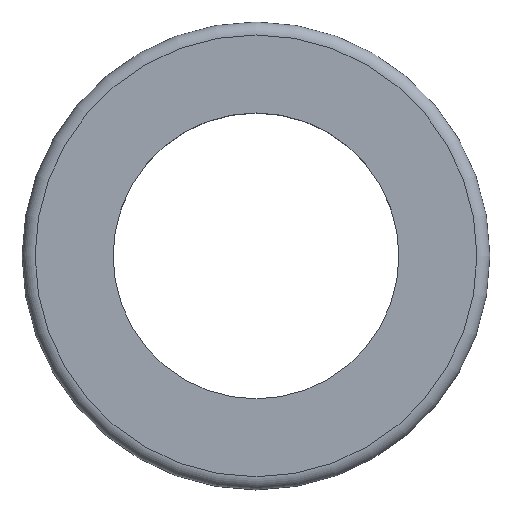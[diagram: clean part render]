
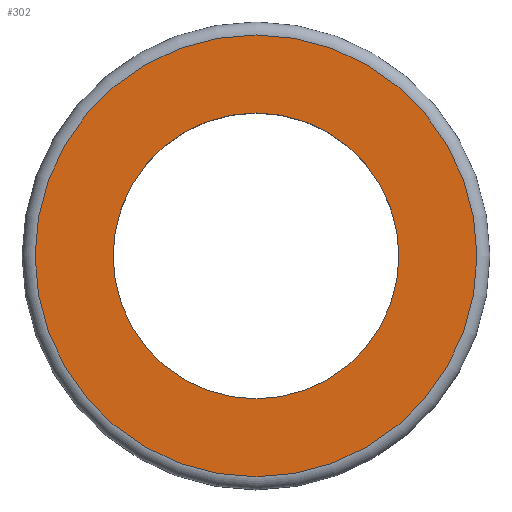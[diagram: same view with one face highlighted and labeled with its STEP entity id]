
A CAD part, top view. The second image highlights one B-rep face of the part: STEP entity #302.
In plain terms, the highlighted planar face has unit normal (0, 0, 1).
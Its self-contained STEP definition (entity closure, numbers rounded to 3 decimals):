
#31 = CYLINDRICAL_SURFACE('',#32,3.3);
#32 = AXIS2_PLACEMENT_3D('',#33,#34,#35);
#33 = CARTESIAN_POINT('',(0.,0.,1.9));
#34 = DIRECTION('',(0.,0.,1.));
#35 = DIRECTION('',(1.,0.,-0.));
#56 = VERTEX_POINT('',#57);
#57 = CARTESIAN_POINT('',(3.3,0.,3.5));
#78 = EDGE_CURVE('',#56,#56,#79,.T.);
#79 = SURFACE_CURVE('',#80,(#85,#92),.PCURVE_S1.);
#80 = CIRCLE('',#81,3.3);
#81 = AXIS2_PLACEMENT_3D('',#82,#83,#84);
#82 = CARTESIAN_POINT('',(0.,0.,3.5));
#83 = DIRECTION('',(0.,0.,1.));
#84 = DIRECTION('',(1.,0.,-0.));
#85 = PCURVE('',#31,#86);
#86 = DEFINITIONAL_REPRESENTATION('',(#87),#91);
#87 = LINE('',#88,#89);
#88 = CARTESIAN_POINT('',(0.,1.6));
#89 = VECTOR('',#90,1.);
#90 = DIRECTION('',(1.,0.));
#91 = ( GEOMETRIC_REPRESENTATION_CONTEXT(2) 
PARAMETRIC_REPRESENTATION_CONTEXT() REPRESENTATION_CONTEXT('2D SPACE',''
  ) );
#92 = PCURVE('',#93,#98);
#93 = PLANE('',#94);
#94 = AXIS2_PLACEMENT_3D('',#95,#96,#97);
#95 = CARTESIAN_POINT('',(0.,0.,3.5));
#96 = DIRECTION('',(0.,0.,1.));
#97 = DIRECTION('',(1.,0.,-0.));
#98 = DEFINITIONAL_REPRESENTATION('',(#99),#103);
#99 = CIRCLE('',#100,3.3);
#100 = AXIS2_PLACEMENT_2D('',#101,#102);
#101 = CARTESIAN_POINT('',(0.,0.));
#102 = DIRECTION('',(1.,-0.));
#103 = ( GEOMETRIC_REPRESENTATION_CONTEXT(2) 
PARAMETRIC_REPRESENTATION_CONTEXT() REPRESENTATION_CONTEXT('2D SPACE',''
  ) );
#239 = TOROIDAL_SURFACE('',#240,5.1,0.3);
#240 = AXIS2_PLACEMENT_3D('',#241,#242,#243);
#241 = CARTESIAN_POINT('',(0.,0.,3.2));
#242 = DIRECTION('',(0.,0.,1.));
#243 = DIRECTION('',(1.,0.,-0.));
#257 = VERTEX_POINT('',#258);
#258 = CARTESIAN_POINT('',(5.1,0.,3.5));
#280 = EDGE_CURVE('',#257,#257,#281,.T.);
#281 = SURFACE_CURVE('',#282,(#287,#294),.PCURVE_S1.);
#282 = CIRCLE('',#283,5.1);
#283 = AXIS2_PLACEMENT_3D('',#284,#285,#286);
#284 = CARTESIAN_POINT('',(0.,0.,3.5));
#285 = DIRECTION('',(0.,0.,1.));
#286 = DIRECTION('',(1.,0.,-0.));
#287 = PCURVE('',#239,#288);
#288 = DEFINITIONAL_REPRESENTATION('',(#289),#293);
#289 = LINE('',#290,#291);
#290 = CARTESIAN_POINT('',(0.,1.571));
#291 = VECTOR('',#292,1.);
#292 = DIRECTION('',(1.,0.));
#293 = ( GEOMETRIC_REPRESENTATION_CONTEXT(2) 
PARAMETRIC_REPRESENTATION_CONTEXT() REPRESENTATION_CONTEXT('2D SPACE',''
  ) );
#294 = PCURVE('',#93,#295);
#295 = DEFINITIONAL_REPRESENTATION('',(#296),#300);
#296 = CIRCLE('',#297,5.1);
#297 = AXIS2_PLACEMENT_2D('',#298,#299);
#298 = CARTESIAN_POINT('',(0.,0.));
#299 = DIRECTION('',(1.,-0.));
#300 = ( GEOMETRIC_REPRESENTATION_CONTEXT(2) 
PARAMETRIC_REPRESENTATION_CONTEXT() REPRESENTATION_CONTEXT('2D SPACE',''
  ) );
#302 = ADVANCED_FACE('',(#303,#306),#93,.T.);
#303 = FACE_BOUND('',#304,.F.);
#304 = EDGE_LOOP('',(#305));
#305 = ORIENTED_EDGE('',*,*,#78,.T.);
#306 = FACE_BOUND('',#307,.F.);
#307 = EDGE_LOOP('',(#308));
#308 = ORIENTED_EDGE('',*,*,#280,.F.);
